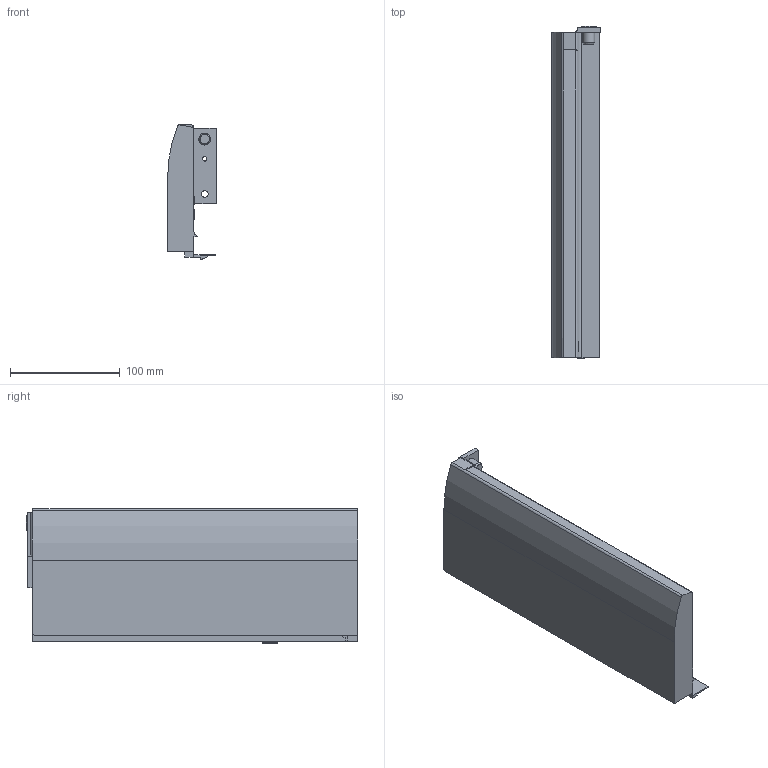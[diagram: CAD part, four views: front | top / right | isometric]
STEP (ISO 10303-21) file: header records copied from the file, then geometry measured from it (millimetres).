
FILE_DESCRIPTION (( 'STEP AP214' ), '1' );
FILE_NAME ('_IMOS_NOVA-Pro_Dekor-H122_DL_NL300_LI.step', '2010-07-14T11:02:12', ( 'grass' ), ( '' ), 'SwSTEP 2.0', 'SolidWorks 2010', '' );
FILE_SCHEMA (( 'AUTOMOTIVE_DESIGN' ));
Length unit declared in the file: millimetre
Products named in the file (1): _IMOS_NOVA-Pro_Dekor-H122_DL_NL300_LI
Bounding box: 44.3 x 302.7 x 122.49 mm (x, y, z)
Volume: 560068.1 mm3; surface area: 126133.9 mm2
Topology: 1 solids, 1 shells, 84 faces, 227 edges, 150 vertices
Faces by surface type: plane 52, cylinder 27, cone 4, bspline 1
Entity records: 2685 total; most frequent: CARTESIAN_POINT 475, DIRECTION 454, ORIENTED_EDGE 454, EDGE_CURVE 227, LINE 164, VECTOR 164, VERTEX_POINT 150, AXIS2_PLACEMENT_3D 145
